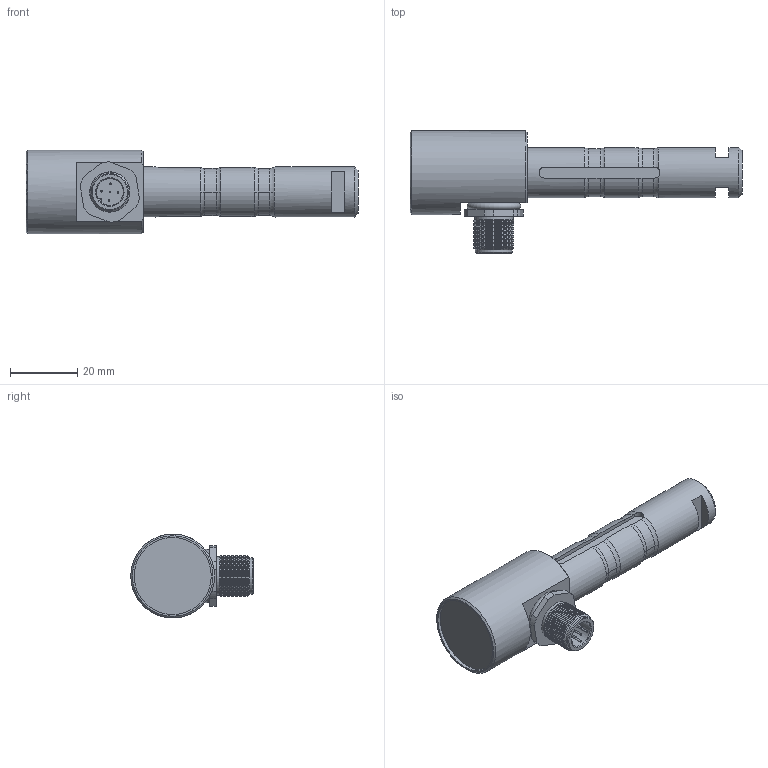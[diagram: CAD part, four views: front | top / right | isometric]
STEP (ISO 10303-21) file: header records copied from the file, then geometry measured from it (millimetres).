
FILE_DESCRIPTION(('HOOPS Exchange Step'),'2;1');
FILE_NAME('C:\Users\tom\AppData\Local\Temp\Alibre Design\export-3935E7E5-43F9-469D-B3D2-9149D83E0421.stp','2021-08-02T13:38:28+02:00',('tom'),('Alibre'),'HOOPS Exchange 2021.0','Alibre','Unknown authorisation');
FILE_SCHEMA( ('AP242_MANAGED_MODEL_BASED_3D_ENGINEERING_MIM_LF {1 0 10303 442 1 1 4 }') );
Length unit declared in the file: centimetre
Products named in the file (3): mb1760_001(a); M12-5P-Stecker-mit-Farbcode; mb1760_000(a)
Assembly tree (2 placements, depth 2):
  mb1760_000(a)
    mb1760_001(a)
    M12-5P-Stecker-mit-Farbcode
Bounding box: 99 x 36.5 x 25 mm (x, y, z)
Surface area: 160902.9 mm2
Topology: 7 solids, 8 shells, 229 faces, 585 edges, 381 vertices
Faces by surface type: cone 81, cylinder 74, plane 60, torus 14
Full cylindrical faces by diameter (mm): 0.5 x10, 8 x2, 10 x1, 11 x1, 11.5 x1, 12 x21, 13 x2, 14.5 x1, 15 x2, 23 x1, 25 x1
Entity records: 7790 total; most frequent: CARTESIAN_POINT 1973, DIRECTION 1294, ORIENTED_EDGE 1184, EDGE_CURVE 585, AXIS2_PLACEMENT_3D 547, VERTEX_POINT 381, CIRCLE 310, EDGE_LOOP 250
